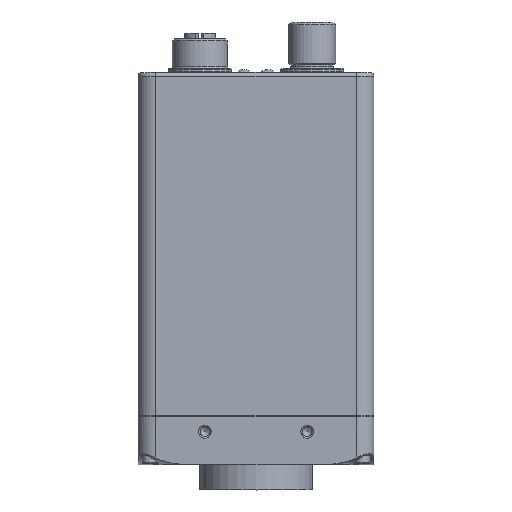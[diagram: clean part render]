
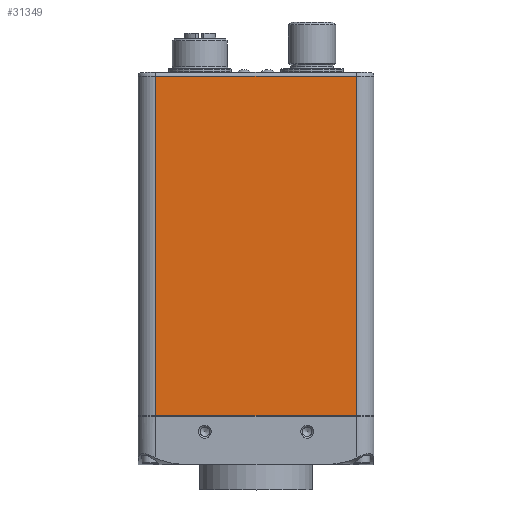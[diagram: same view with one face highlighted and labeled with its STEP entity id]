
A CAD part, top view. The second image highlights one B-rep face of the part: STEP entity #31349.
In plain terms, the highlighted planar face has unit normal (0, 0, 1).
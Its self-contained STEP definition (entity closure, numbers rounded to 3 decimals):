
#2543=LINE('',#45429,#3780);
#2734=LINE('',#47014,#3971);
#2735=LINE('',#47018,#3972);
#2736=LINE('',#47020,#3973);
#3780=VECTOR('',#37047,1000.);
#3971=VECTOR('',#37920,1000.);
#3972=VECTOR('',#37925,1000.);
#3973=VECTOR('',#37926,1000.);
#6685=ORIENTED_EDGE('',*,*,#11567,.F.);
#6686=ORIENTED_EDGE('',*,*,#11205,.F.);
#6687=ORIENTED_EDGE('',*,*,#11565,.T.);
#6688=ORIENTED_EDGE('',*,*,#11568,.T.);
#11205=EDGE_CURVE('',#13891,#13893,#2543,.T.);
#11565=EDGE_CURVE('',#13891,#14124,#2734,.T.);
#11567=EDGE_CURVE('',#13893,#14125,#2735,.T.);
#11568=EDGE_CURVE('',#14124,#14125,#2736,.T.);
#13891=VERTEX_POINT('',#45427);
#13893=VERTEX_POINT('',#45430);
#14124=VERTEX_POINT('',#47015);
#14125=VERTEX_POINT('',#47019);
#16315=EDGE_LOOP('',(#6685,#6686,#6687,#6688));
#18487=FACE_BOUND('',#16315,.T.);
#20053=PLANE('',#33449);
#31349=ADVANCED_FACE('',(#18487),#20053,.F.);
#33449=AXIS2_PLACEMENT_3D('',#47017,#37923,#37924);
#37047=DIRECTION('',(1.,0.,0.));
#37920=DIRECTION('',(0.,-1.,0.));
#37923=DIRECTION('',(0.,0.,-1.));
#37924=DIRECTION('',(0.,1.,0.));
#37925=DIRECTION('',(0.,-1.,0.));
#37926=DIRECTION('',(1.,0.,0.));
#45427=CARTESIAN_POINT('',(-25.488,86.375,29.988));
#45429=CARTESIAN_POINT('',(-25.488,86.375,29.988));
#45430=CARTESIAN_POINT('',(25.488,86.375,29.988));
#47014=CARTESIAN_POINT('',(-25.488,87.375,29.988));
#47015=CARTESIAN_POINT('',(-25.488,0.075,29.988));
#47017=CARTESIAN_POINT('',(-25.488,87.375,29.988));
#47018=CARTESIAN_POINT('',(25.488,87.375,29.988));
#47019=CARTESIAN_POINT('',(25.488,0.075,29.988));
#47020=CARTESIAN_POINT('',(-25.488,0.075,29.988));
